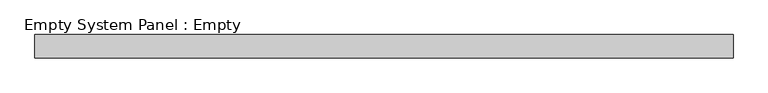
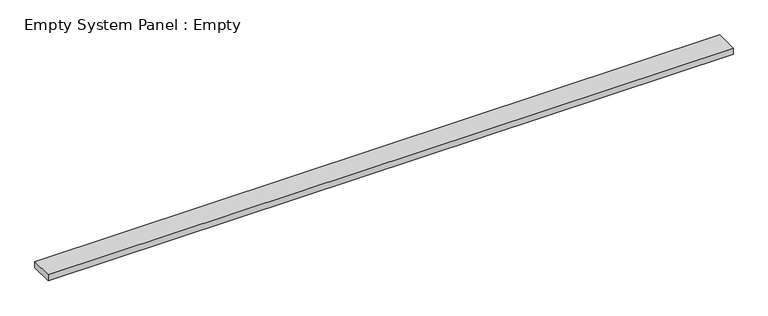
"""IFC4 building model written with IfcOpenShell, lengths in millimetres: plate geometry, Empty System Panel : Empty."""

from ifc_helpers import new_model, si_unit, origin, origin_with_axes, place, context, project, spatial, polyline, outline, extrude, source, transform, mapped, element, save


def empty_system_panel_empty_b5ef08ed(model_context):
    return source(origin(), model_context, "Body", "SweptSolid", [
        extrude(outline(polyline([(1500.0, 50.0), (-1500.0, 50.0), (-1500.0, 150.0), (1500.0, 150.0), (1500.0, 50.0)])), origin_with_axes(), (0.0, 0.0, 1.0), 28.1602589),
    ])


if __name__ == "__main__":
    model = new_model("IFC4")
    model_context = context("Model", 3, world=origin())
    ifc_project = project(units=[si_unit("LENGTHUNIT", "METRE", prefix="MILLI")], contexts=[model_context])
    site = spatial("IfcSite", under=ifc_project)
    building = spatial("IfcBuilding", under=site)
    placement = place(None, origin())
    empty_system_panel_empty_shape = empty_system_panel_empty_b5ef08ed(model_context)
    element("IfcPlate", 1, ObjectType="Empty System Panel : Empty", at=placement, inside=building, context=model_context, shape_type="MappedRepresentation", body=[
        mapped(empty_system_panel_empty_shape, transform((0.0, 0.0, 0.0), x_axis=(1.0, 0.0, 0.0), y_axis=(0.0, 1.0, 0.0), z_axis=(0.0, 0.0, 1.0))),
    ])
    save(model, "model.ifc")
